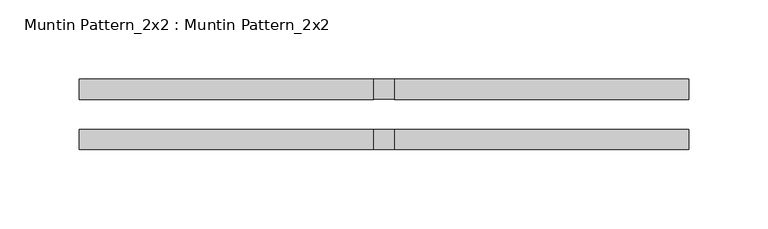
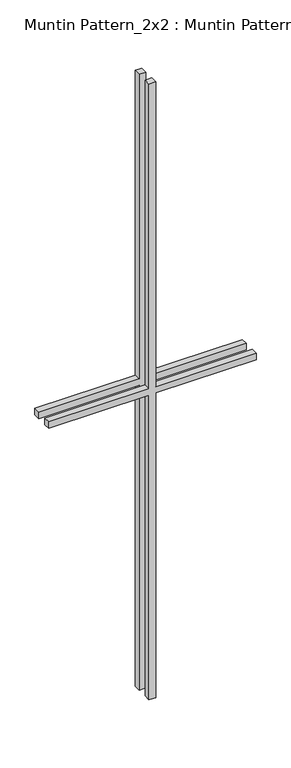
"""IFC4 building model written with IfcOpenShell, lengths in millimetres: proxy geometry, Muntin Pattern_2x2 : Muntin Pattern_2x2."""

from ifc_helpers import new_model, si_unit, frame, origin, place, context, project, spatial, polyline, outline, extrude, source, transform, mapped, element, save


def muntin_pattern_2x2_muntin_pattern_2x2_3dfd0a47(model_context):
    return source(origin(), model_context, "Body", "SweptSolid", [
        extrude(outline(polyline([(609.6, -6.35), (609.6, -192.0875), (596.9, -192.0875), (596.9, -6.35), (0.0, -6.35), (0.0, 6.35), (596.9, 6.35), (596.9, 192.0875), (609.6, 192.0875), (609.6, 6.35), (1206.5, 6.35), (1206.5, -6.35), (609.6, -6.35)])), frame((0.0, -22.225, 0.0), z_axis=(0.0, 1.0, 0.0), x_axis=(0.0, 0.0, 1.0)), (0.0, 0.0, 1.0), 12.7),
        extrude(outline(polyline([(609.6, -6.35), (609.6, -192.0875), (596.9, -192.0875), (596.9, -6.35), (0.0, -6.35), (0.0, 6.35), (596.9, 6.35), (596.9, 192.0875), (609.6, 192.0875), (609.6, 6.35), (1206.5, 6.35), (1206.5, -6.35), (609.6, -6.35)])), frame((0.0, 9.525, 0.0), z_axis=(0.0, 1.0, 0.0), x_axis=(0.0, 0.0, 1.0)), (0.0, 0.0, 1.0), 12.7),
    ])


if __name__ == "__main__":
    model = new_model("IFC4")
    model_context = context("Model", 3, world=origin())
    ifc_project = project(units=[si_unit("LENGTHUNIT", "METRE", prefix="MILLI")], contexts=[model_context])
    site = spatial("IfcSite", under=ifc_project)
    building = spatial("IfcBuilding", under=site)
    placement = place(None, origin())
    muntin_pattern_2x2_muntin_pattern_2x2_shape = muntin_pattern_2x2_muntin_pattern_2x2_3dfd0a47(model_context)
    element("IfcBuildingElementProxy", 1, Name="Muntin Pattern_2x2 : Muntin Pattern_2x2", ObjectType="Muntin Pattern_2x2 : Muntin Pattern_2x2", at=placement, inside=building, context=model_context, shape_type="MappedRepresentation", body=[
        mapped(muntin_pattern_2x2_muntin_pattern_2x2_shape, transform((0.0, 0.0, 0.0), x_axis=(1.0, 0.0, 0.0), y_axis=(0.0, 1.0, 0.0), z_axis=(0.0, 0.0, 1.0))),
    ])
    save(model, "model.ifc")
